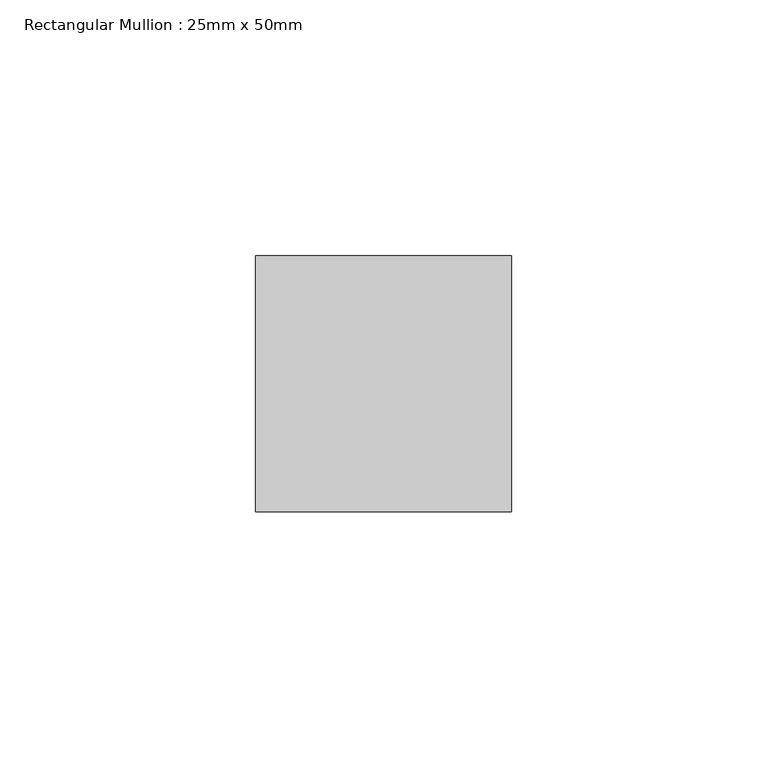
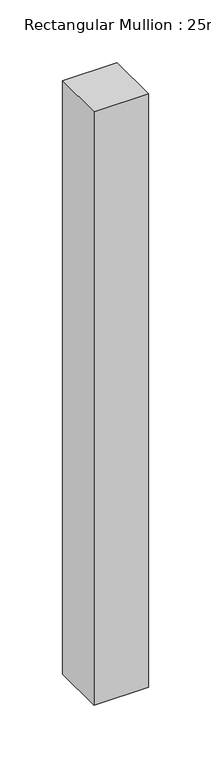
"""IFC4 building model written with IfcOpenShell, lengths in millimetres: member geometry, Rectangular Mullion : 25mm x 50mm."""

from ifc_helpers import new_model, si_unit, frame, origin, place, context, project, spatial, polyline, outline, extrude, source, transform, mapped, element, save


def rectangular_mullion_25mm_x_50mm_eb25a77d(model_context):
    return source(origin(), model_context, "Body", "SweptSolid", [
        extrude(outline(polyline([(0.0, 25.0), (0.0, -25.0), (-50.0, -25.0), (-50.0, 25.0), (0.0, 25.0)])), frame((0.0, 0.0, -576.6666667), z_axis=(0.0, 0.0, 1.0), x_axis=(1.0, 0.0, 0.0)), (0.0, 0.0, 1.0), 576.6666667),
    ])


if __name__ == "__main__":
    model = new_model("IFC4")
    model_context = context("Model", 3, world=origin())
    ifc_project = project(units=[si_unit("LENGTHUNIT", "METRE", prefix="MILLI")], contexts=[model_context])
    site = spatial("IfcSite", under=ifc_project)
    building = spatial("IfcBuilding", under=site)
    placement = place(None, origin())
    rectangular_mullion_25mm_x_50mm_shape = rectangular_mullion_25mm_x_50mm_eb25a77d(model_context)
    element("IfcMember", 1, ObjectType="Rectangular Mullion : 25mm x 50mm", at=placement, inside=building, context=model_context, shape_type="MappedRepresentation", body=[
        mapped(rectangular_mullion_25mm_x_50mm_shape, transform((0.0, 0.0, 0.0), x_axis=(1.0, 0.0, 0.0), y_axis=(0.0, 1.0, 0.0), z_axis=(0.0, 0.0, 1.0))),
    ])
    save(model, "model.ifc")
